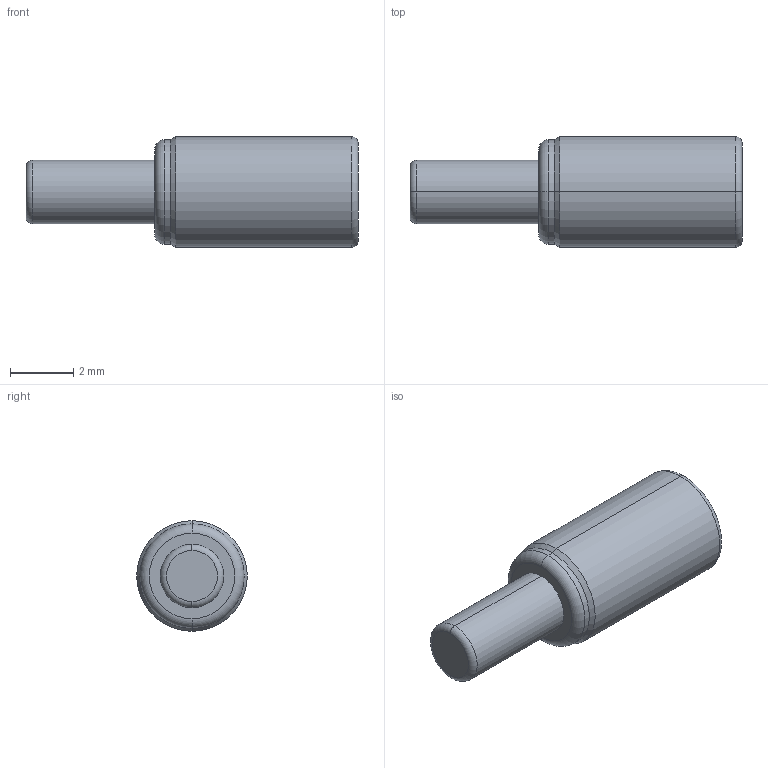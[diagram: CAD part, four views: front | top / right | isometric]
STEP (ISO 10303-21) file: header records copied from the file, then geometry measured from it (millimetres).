
FILE_DESCRIPTION((''),'2;1');
FILE_NAME('C1888-01','2022-07-09T11:17:19',('Administrator'),(''),'CREO PARAMETRIC BY PTC INC, 2018400','CREO PARAMETRIC BY PTC INC, 2018400','');
FILE_SCHEMA(('CONFIG_CONTROL_DESIGN'));
Length unit declared in the file: millimetre
Products named in the file (1): C1888-01
Bounding box: 10.5 x 3.5 x 3.5 mm (x, y, z)
Volume: 73.8 mm3; surface area: 111.6 mm2
Topology: 1 solids, 1 shells, 17 faces, 32 edges, 18 vertices
Faces by surface type: cylinder 6, torus 6, plane 3, cone 2
Entity records: 468 total; most frequent: DIRECTION 90, CARTESIAN_POINT 67, ORIENTED_EDGE 64, AXIS2_PLACEMENT_3D 41, EDGE_CURVE 32, CIRCLE 24, VERTEX_POINT 18, EDGE_LOOP 18
